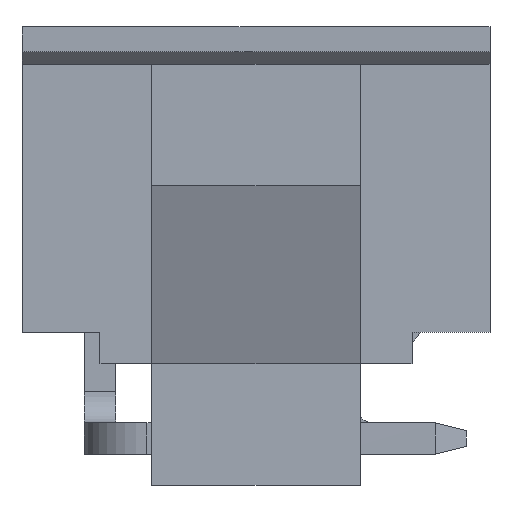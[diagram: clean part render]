
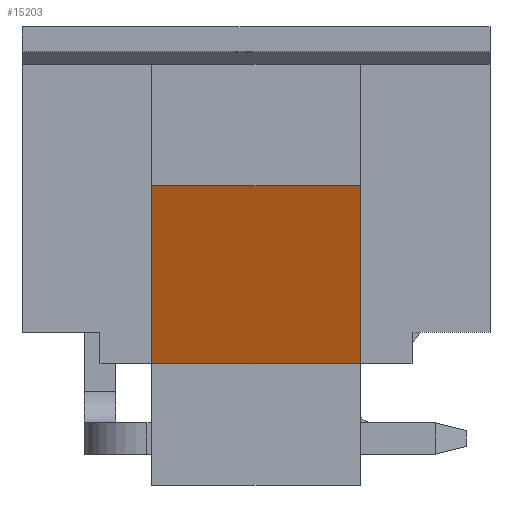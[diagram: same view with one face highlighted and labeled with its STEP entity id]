
A CAD part, front view. The second image highlights one B-rep face of the part: STEP entity #15203.
In plain terms, the highlighted planar face has unit normal (0, -0.938, -0.346).
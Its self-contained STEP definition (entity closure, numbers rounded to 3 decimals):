
#6313 = PLANE('',#6314);
#6314 = AXIS2_PLACEMENT_3D('',#6315,#6316,#6317);
#6315 = CARTESIAN_POINT('',(4.16,8.3,-1.));
#6316 = DIRECTION('',(-1.,-0.,-0.));
#6317 = DIRECTION('',(0.,0.,-1.));
#6341 = PLANE('',#6342);
#6342 = AXIS2_PLACEMENT_3D('',#6343,#6344,#6345);
#6343 = CARTESIAN_POINT('',(0.,-8.6,8.6));
#6344 = DIRECTION('',(0.,-1.,0.));
#6345 = DIRECTION('',(0.,0.,-1.));
#6369 = PLANE('',#6370);
#6370 = AXIS2_PLACEMENT_3D('',#6371,#6372,#6373);
#6371 = CARTESIAN_POINT('',(10.84,8.3,-4.9));
#6372 = DIRECTION('',(1.,0.,-0.));
#6373 = DIRECTION('',(0.,0.,1.));
#10481 = VERTEX_POINT('',#10482);
#10482 = CARTESIAN_POINT('',(4.16,-6.5,-1.));
#10496 = PLANE('',#10497);
#10497 = AXIS2_PLACEMENT_3D('',#10498,#10499,#10500);
#10498 = CARTESIAN_POINT('',(2.5,-6.5,-4.9));
#10499 = DIRECTION('',(0.,-1.,0.));
#10500 = DIRECTION('',(0.,0.,1.));
#10508 = EDGE_CURVE('',#10481,#10509,#10511,.T.);
#10509 = VERTEX_POINT('',#10510);
#10510 = CARTESIAN_POINT('',(4.16,-8.6,4.7));
#10511 = SURFACE_CURVE('',#10512,(#10516,#10523),.PCURVE_S1.);
#10512 = LINE('',#10513,#10514);
#10513 = CARTESIAN_POINT('',(4.16,-6.5,-1.));
#10514 = VECTOR('',#10515,1.);
#10515 = DIRECTION('',(0.,-0.346,0.938));
#10516 = PCURVE('',#6313,#10517);
#10517 = DEFINITIONAL_REPRESENTATION('',(#10518),#10522);
#10518 = LINE('',#10519,#10520);
#10519 = CARTESIAN_POINT('',(0.,14.8));
#10520 = VECTOR('',#10521,1.);
#10521 = DIRECTION('',(-0.938,0.346));
#10522 = ( GEOMETRIC_REPRESENTATION_CONTEXT(2) 
PARAMETRIC_REPRESENTATION_CONTEXT() REPRESENTATION_CONTEXT('2D SPACE',''
  ) );
#10523 = PCURVE('',#10524,#10529);
#10524 = PLANE('',#10525);
#10525 = AXIS2_PLACEMENT_3D('',#10526,#10527,#10528);
#10526 = CARTESIAN_POINT('',(2.5,-6.5,-1.));
#10527 = DIRECTION('',(-0.,-0.938,-0.346));
#10528 = DIRECTION('',(0.,-0.346,0.938));
#10529 = DEFINITIONAL_REPRESENTATION('',(#10530),#10534);
#10530 = LINE('',#10531,#10532);
#10531 = CARTESIAN_POINT('',(0.,-1.66));
#10532 = VECTOR('',#10533,1.);
#10533 = DIRECTION('',(1.,0.));
#10534 = ( GEOMETRIC_REPRESENTATION_CONTEXT(2) 
PARAMETRIC_REPRESENTATION_CONTEXT() REPRESENTATION_CONTEXT('2D SPACE',''
  ) );
#10735 = VERTEX_POINT('',#10736);
#10736 = CARTESIAN_POINT('',(10.84,-8.6,4.7));
#10759 = EDGE_CURVE('',#10509,#10735,#10760,.T.);
#10760 = SURFACE_CURVE('',#10761,(#10765,#10772),.PCURVE_S1.);
#10761 = LINE('',#10762,#10763);
#10762 = CARTESIAN_POINT('',(4.16,-8.6,4.7));
#10763 = VECTOR('',#10764,1.);
#10764 = DIRECTION('',(1.,0.,0.));
#10765 = PCURVE('',#6341,#10766);
#10766 = DEFINITIONAL_REPRESENTATION('',(#10767),#10771);
#10767 = LINE('',#10768,#10769);
#10768 = CARTESIAN_POINT('',(3.9,4.16));
#10769 = VECTOR('',#10770,1.);
#10770 = DIRECTION('',(0.,1.));
#10771 = ( GEOMETRIC_REPRESENTATION_CONTEXT(2) 
PARAMETRIC_REPRESENTATION_CONTEXT() REPRESENTATION_CONTEXT('2D SPACE',''
  ) );
#10772 = PCURVE('',#10524,#10773);
#10773 = DEFINITIONAL_REPRESENTATION('',(#10774),#10778);
#10774 = LINE('',#10775,#10776);
#10775 = CARTESIAN_POINT('',(6.075,-1.66));
#10776 = VECTOR('',#10777,1.);
#10777 = DIRECTION('',(0.,-1.));
#10778 = ( GEOMETRIC_REPRESENTATION_CONTEXT(2) 
PARAMETRIC_REPRESENTATION_CONTEXT() REPRESENTATION_CONTEXT('2D SPACE',''
  ) );
#10903 = EDGE_CURVE('',#10735,#10904,#10906,.T.);
#10904 = VERTEX_POINT('',#10905);
#10905 = CARTESIAN_POINT('',(10.84,-6.5,-1.));
#10906 = SURFACE_CURVE('',#10907,(#10911,#10918),.PCURVE_S1.);
#10907 = LINE('',#10908,#10909);
#10908 = CARTESIAN_POINT('',(10.84,-8.6,4.7));
#10909 = VECTOR('',#10910,1.);
#10910 = DIRECTION('',(0.,0.346,-0.938));
#10911 = PCURVE('',#6369,#10912);
#10912 = DEFINITIONAL_REPRESENTATION('',(#10913),#10917);
#10913 = LINE('',#10914,#10915);
#10914 = CARTESIAN_POINT('',(9.6,16.9));
#10915 = VECTOR('',#10916,1.);
#10916 = DIRECTION('',(-0.938,-0.346));
#10917 = ( GEOMETRIC_REPRESENTATION_CONTEXT(2) 
PARAMETRIC_REPRESENTATION_CONTEXT() REPRESENTATION_CONTEXT('2D SPACE',''
  ) );
#10918 = PCURVE('',#10524,#10919);
#10919 = DEFINITIONAL_REPRESENTATION('',(#10920),#10924);
#10920 = LINE('',#10921,#10922);
#10921 = CARTESIAN_POINT('',(6.075,-8.34));
#10922 = VECTOR('',#10923,1.);
#10923 = DIRECTION('',(-1.,0.));
#10924 = ( GEOMETRIC_REPRESENTATION_CONTEXT(2) 
PARAMETRIC_REPRESENTATION_CONTEXT() REPRESENTATION_CONTEXT('2D SPACE',''
  ) );
#15181 = EDGE_CURVE('',#10904,#10481,#15182,.T.);
#15182 = SURFACE_CURVE('',#15183,(#15187,#15194),.PCURVE_S1.);
#15183 = LINE('',#15184,#15185);
#15184 = CARTESIAN_POINT('',(10.84,-6.5,-1.));
#15185 = VECTOR('',#15186,1.);
#15186 = DIRECTION('',(-1.,0.,0.));
#15187 = PCURVE('',#10496,#15188);
#15188 = DEFINITIONAL_REPRESENTATION('',(#15189),#15193);
#15189 = LINE('',#15190,#15191);
#15190 = CARTESIAN_POINT('',(3.9,-8.34));
#15191 = VECTOR('',#15192,1.);
#15192 = DIRECTION('',(0.,1.));
#15193 = ( GEOMETRIC_REPRESENTATION_CONTEXT(2) 
PARAMETRIC_REPRESENTATION_CONTEXT() REPRESENTATION_CONTEXT('2D SPACE',''
  ) );
#15194 = PCURVE('',#10524,#15195);
#15195 = DEFINITIONAL_REPRESENTATION('',(#15196),#15200);
#15196 = LINE('',#15197,#15198);
#15197 = CARTESIAN_POINT('',(0.,-8.34));
#15198 = VECTOR('',#15199,1.);
#15199 = DIRECTION('',(0.,1.));
#15200 = ( GEOMETRIC_REPRESENTATION_CONTEXT(2) 
PARAMETRIC_REPRESENTATION_CONTEXT() REPRESENTATION_CONTEXT('2D SPACE',''
  ) );
#15203 = ADVANCED_FACE('',(#15204),#10524,.T.);
#15204 = FACE_BOUND('',#15205,.T.);
#15205 = EDGE_LOOP('',(#15206,#15207,#15208,#15209));
#15206 = ORIENTED_EDGE('',*,*,#15181,.F.);
#15207 = ORIENTED_EDGE('',*,*,#10903,.F.);
#15208 = ORIENTED_EDGE('',*,*,#10759,.F.);
#15209 = ORIENTED_EDGE('',*,*,#10508,.F.);
